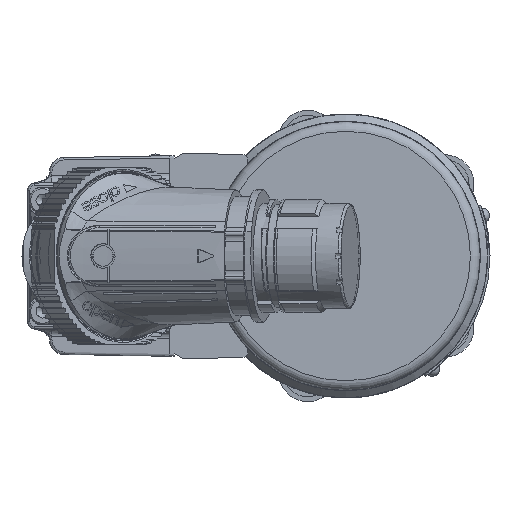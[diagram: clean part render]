
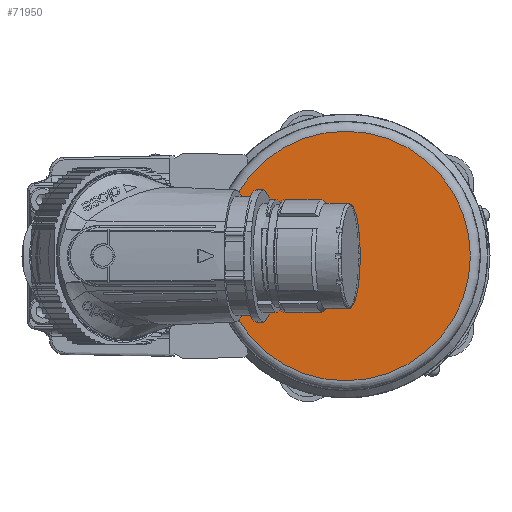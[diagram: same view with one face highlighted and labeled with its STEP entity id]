
A CAD part, left-side view. The second image highlights one B-rep face of the part: STEP entity #71950.
In plain terms, the highlighted planar face has unit normal (-1, 0, 0).
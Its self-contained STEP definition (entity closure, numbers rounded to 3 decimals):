
#12144 = CARTESIAN_POINT ( 'NONE',  ( -348.4, 0., 0. ) ) ;
#12326 = DIRECTION ( 'NONE',  ( -1., 0., 0. ) ) ;
#15064 = EDGE_LOOP ( 'NONE', ( #45472 ) ) ;
#22206 = EDGE_CURVE ( 'NONE', #83153, #83153, #43695, .T. ) ;
#25503 = DIRECTION ( 'NONE',  ( -1., 0., 0. ) ) ;
#26165 = FACE_OUTER_BOUND ( 'NONE', #15064, .T. ) ;
#43695 = CIRCLE ( 'NONE', #58450, 25.5 ) ;
#45374 = PLANE ( 'NONE',  #53931 ) ;
#45472 = ORIENTED_EDGE ( 'NONE', *, *, #22206, .T. ) ;
#52277 = CARTESIAN_POINT ( 'NONE',  ( -348.4, 0., 0. ) ) ;
#53931 = AXIS2_PLACEMENT_3D ( 'NONE', #12144, #25503, #72531 ) ;
#58450 = AXIS2_PLACEMENT_3D ( 'NONE', #52277, #12326, #59095 ) ;
#59095 = DIRECTION ( 'NONE',  ( 0., 0., 1. ) ) ;
#66007 = CARTESIAN_POINT ( 'NONE',  ( -348.4, 0., 25.5 ) ) ;
#71950 = ADVANCED_FACE ( 'NONE', ( #26165 ), #45374, .T. ) ;
#72531 = DIRECTION ( 'NONE',  ( 0., 0., 1. ) ) ;
#83153 = VERTEX_POINT ( 'NONE', #66007 ) ;
